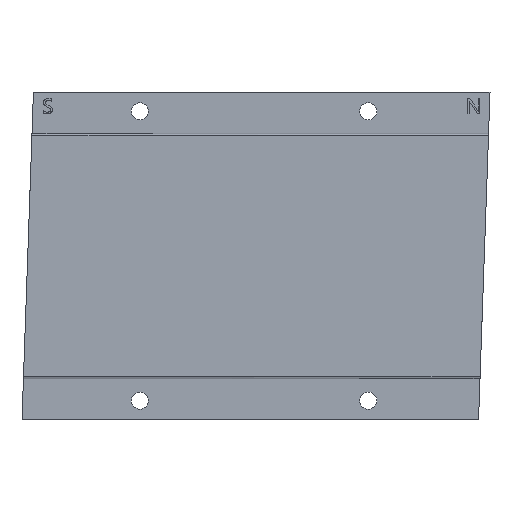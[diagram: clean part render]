
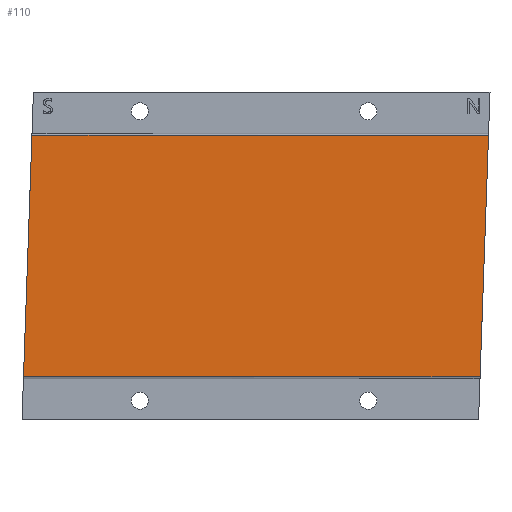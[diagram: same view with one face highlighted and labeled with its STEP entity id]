
A CAD part, front view. The second image highlights one B-rep face of the part: STEP entity #110.
In plain terms, the highlighted planar face has unit normal (0, -1, 0).
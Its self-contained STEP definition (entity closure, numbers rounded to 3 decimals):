
#110 = ADVANCED_FACE( '', ( #229 ), #230, .T. );
#229 = FACE_OUTER_BOUND( '', #357, .T. );
#230 = PLANE( '', #358 );
#357 = EDGE_LOOP( '', ( #693, #694, #695, #696 ) );
#358 = AXIS2_PLACEMENT_3D( '', #697, #698, #699 );
#693 = ORIENTED_EDGE( '', *, *, #867, .T. );
#694 = ORIENTED_EDGE( '', *, *, #870, .T. );
#695 = ORIENTED_EDGE( '', *, *, #788, .T. );
#696 = ORIENTED_EDGE( '', *, *, #848, .T. );
#697 = CARTESIAN_POINT( '', ( 0., -5.6, 0. ) );
#698 = DIRECTION( '', ( 0., -1., 0. ) );
#699 = DIRECTION( '', ( 0., 0., -1. ) );
#788 = EDGE_CURVE( '', #920, #921, #922, .T. );
#848 = EDGE_CURVE( '', #921, #1016, #1018, .T. );
#867 = EDGE_CURVE( '', #1016, #1040, #1042, .T. );
#870 = EDGE_CURVE( '', #1040, #920, #1045, .T. );
#920 = VERTEX_POINT( '', #1174 );
#921 = VERTEX_POINT( '', #1175 );
#922 = LINE( '', #1176, #1177 );
#1016 = VERTEX_POINT( '', #1415 );
#1018 = LINE( '', #1417, #1418 );
#1040 = VERTEX_POINT( '', #1463 );
#1042 = LINE( '', #1465, #1466 );
#1045 = LINE( '', #1470, #1471 );
#1174 = CARTESIAN_POINT( '', ( -56.413, -5.6, -30.442 ) );
#1175 = CARTESIAN_POINT( '', ( -54.192, -5.6, 33.158 ) );
#1176 = CARTESIAN_POINT( '', ( -56.427, -5.6, -30.842 ) );
#1177 = VECTOR( '', #1517, 1000. );
#1415 = CARTESIAN_POINT( '', ( -174.191, -5.6, 33.158 ) );
#1417 = CARTESIAN_POINT( '', ( -174.177, -5.6, 33.158 ) );
#1418 = VECTOR( '', #1564, 1000. );
#1463 = CARTESIAN_POINT( '', ( -176.41, -5.6, -30.442 ) );
#1465 = CARTESIAN_POINT( '', ( -174.177, -5.6, 33.558 ) );
#1466 = VECTOR( '', #1573, 1000. );
#1470 = CARTESIAN_POINT( '', ( 123.573, -5.6, -30.442 ) );
#1471 = VECTOR( '', #1575, 1000. );
#1517 = DIRECTION( '', ( 0.035, 0., 0.999 ) );
#1564 = DIRECTION( '', ( -1., 0., 0. ) );
#1573 = DIRECTION( '', ( -0.035, 0., -0.999 ) );
#1575 = DIRECTION( '', ( 1., 0., 0. ) );
